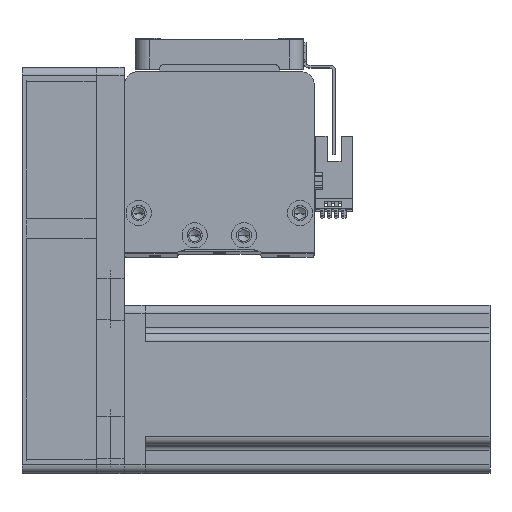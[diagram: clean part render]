
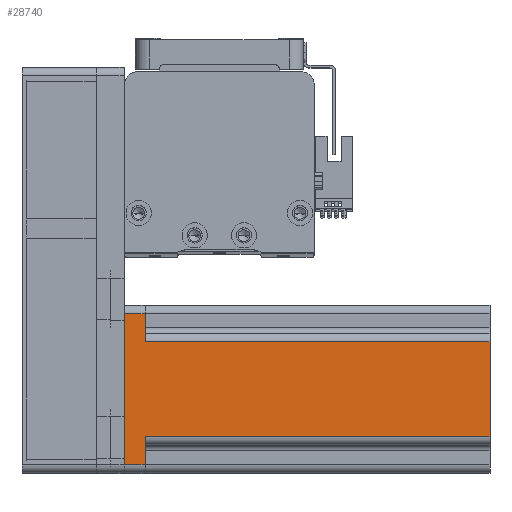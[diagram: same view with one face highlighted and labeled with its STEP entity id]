
A CAD part, top view. The second image highlights one B-rep face of the part: STEP entity #28740.
In plain terms, the highlighted planar face has unit normal (0, 0, 1) as drawn and (0, -1, 0) by its records, which use the part's own axes.
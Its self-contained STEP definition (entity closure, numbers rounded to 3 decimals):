
#1096 = DIRECTION ( 'NONE',  ( 0., 0., 1. ) ) ;
#1528 = CARTESIAN_POINT ( 'NONE',  ( -27., -30., 130.7 ) ) ;
#5112 = DIRECTION ( 'NONE',  ( 1., 0., 0. ) ) ;
#5113 = PLANE ( 'NONE',  #13192 ) ;
#5758 = EDGE_CURVE ( 'NONE', #27195, #45181, #25375, .T. ) ;
#5901 = EDGE_CURVE ( 'NONE', #8051, #30198, #25916, .T. ) ;
#6511 = DIRECTION ( 'NONE',  ( 0., 0., -1. ) ) ;
#6546 = VECTOR ( 'NONE', #32230, 1000. ) ;
#6656 = LINE ( 'NONE', #1528, #25226 ) ;
#7346 = VECTOR ( 'NONE', #19009, 1000. ) ;
#7461 = CARTESIAN_POINT ( 'NONE',  ( -27., -30., 7.5 ) ) ;
#7465 = FACE_OUTER_BOUND ( 'NONE', #15204, .T. ) ;
#7774 = CARTESIAN_POINT ( 'NONE',  ( 20., -30., 7.5 ) ) ;
#8051 = VERTEX_POINT ( 'NONE', #30453 ) ;
#12583 = CARTESIAN_POINT ( 'NONE',  ( -17., -30., 130.7 ) ) ;
#13192 = AXIS2_PLACEMENT_3D ( 'NONE', #15744, #40232, #19225 ) ;
#13477 = CARTESIAN_POINT ( 'NONE',  ( 27., -30., 7.5 ) ) ;
#14467 = VERTEX_POINT ( 'NONE', #28966 ) ;
#14776 = VERTEX_POINT ( 'NONE', #27280 ) ;
#15204 = EDGE_LOOP ( 'NONE', ( #43582, #41040, #43897, #37704, #31313, #28894, #36618, #18010 ) ) ;
#15744 = CARTESIAN_POINT ( 'NONE',  ( 30., -30., 130.7 ) ) ;
#15788 = LINE ( 'NONE', #7774, #6546 ) ;
#16911 = EDGE_CURVE ( 'NONE', #14467, #8051, #31037, .T. ) ;
#17159 = VECTOR ( 'NONE', #1096, 1000. ) ;
#18010 = ORIENTED_EDGE ( 'NONE', *, *, #42504, .T. ) ;
#19009 = DIRECTION ( 'NONE',  ( 0., 0., 1. ) ) ;
#19225 = DIRECTION ( 'NONE',  ( -1., 0., 0. ) ) ;
#21502 = DIRECTION ( 'NONE',  ( 1., 0., 0. ) ) ;
#22017 = CARTESIAN_POINT ( 'NONE',  ( 17., -30., 130.7 ) ) ;
#22496 = CARTESIAN_POINT ( 'NONE',  ( 30., -30., 0. ) ) ;
#24131 = VECTOR ( 'NONE', #36537, 1000. ) ;
#24645 = VERTEX_POINT ( 'NONE', #12583 ) ;
#25226 = VECTOR ( 'NONE', #29331, 1000. ) ;
#25375 = LINE ( 'NONE', #42500, #44001 ) ;
#25916 = LINE ( 'NONE', #40048, #7346 ) ;
#27195 = VERTEX_POINT ( 'NONE', #7461 ) ;
#27280 = CARTESIAN_POINT ( 'NONE',  ( 17., -30., 7.5 ) ) ;
#28331 = EDGE_CURVE ( 'NONE', #24645, #45181, #32588, .T. ) ;
#28740 = ADVANCED_FACE ( 'NONE', ( #7465 ), #5113, .F. ) ;
#28894 = ORIENTED_EDGE ( 'NONE', *, *, #5901, .T. ) ;
#28966 = CARTESIAN_POINT ( 'NONE',  ( -27., -30., 0. ) ) ;
#29331 = DIRECTION ( 'NONE',  ( 0., 0., -1. ) ) ;
#29950 = CARTESIAN_POINT ( 'NONE',  ( 17., -30., 130.7 ) ) ;
#30198 = VERTEX_POINT ( 'NONE', #13477 ) ;
#30453 = CARTESIAN_POINT ( 'NONE',  ( 27., -30., 0. ) ) ;
#31009 = CARTESIAN_POINT ( 'NONE',  ( -17., -30., 7.5 ) ) ;
#31037 = LINE ( 'NONE', #22496, #39239 ) ;
#31313 = ORIENTED_EDGE ( 'NONE', *, *, #16911, .T. ) ;
#31857 = VERTEX_POINT ( 'NONE', #29950 ) ;
#32230 = DIRECTION ( 'NONE',  ( -1., 0., 0. ) ) ;
#32588 = LINE ( 'NONE', #37855, #41870 ) ;
#33045 = CARTESIAN_POINT ( 'NONE',  ( 30., -30., 130.7 ) ) ;
#34541 = LINE ( 'NONE', #33045, #24131 ) ;
#35792 = LINE ( 'NONE', #22017, #17159 ) ;
#36004 = EDGE_CURVE ( 'NONE', #30198, #14776, #15788, .T. ) ;
#36458 = EDGE_CURVE ( 'NONE', #27195, #14467, #6656, .T. ) ;
#36463 = EDGE_CURVE ( 'NONE', #24645, #31857, #34541, .T. ) ;
#36537 = DIRECTION ( 'NONE',  ( 1., 0., 0. ) ) ;
#36618 = ORIENTED_EDGE ( 'NONE', *, *, #36004, .T. ) ;
#37704 = ORIENTED_EDGE ( 'NONE', *, *, #36458, .T. ) ;
#37855 = CARTESIAN_POINT ( 'NONE',  ( -17., -30., 130.7 ) ) ;
#39239 = VECTOR ( 'NONE', #5112, 1000. ) ;
#40048 = CARTESIAN_POINT ( 'NONE',  ( 27., -30., 130.7 ) ) ;
#40232 = DIRECTION ( 'NONE',  ( 0., 1., 0. ) ) ;
#41040 = ORIENTED_EDGE ( 'NONE', *, *, #28331, .T. ) ;
#41870 = VECTOR ( 'NONE', #6511, 1000. ) ;
#42500 = CARTESIAN_POINT ( 'NONE',  ( -20., -30., 7.5 ) ) ;
#42504 = EDGE_CURVE ( 'NONE', #14776, #31857, #35792, .T. ) ;
#43582 = ORIENTED_EDGE ( 'NONE', *, *, #36463, .F. ) ;
#43897 = ORIENTED_EDGE ( 'NONE', *, *, #5758, .F. ) ;
#44001 = VECTOR ( 'NONE', #21502, 1000. ) ;
#45181 = VERTEX_POINT ( 'NONE', #31009 ) ;
